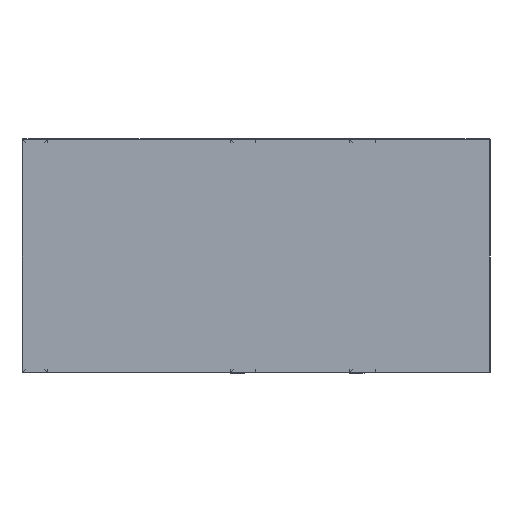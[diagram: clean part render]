
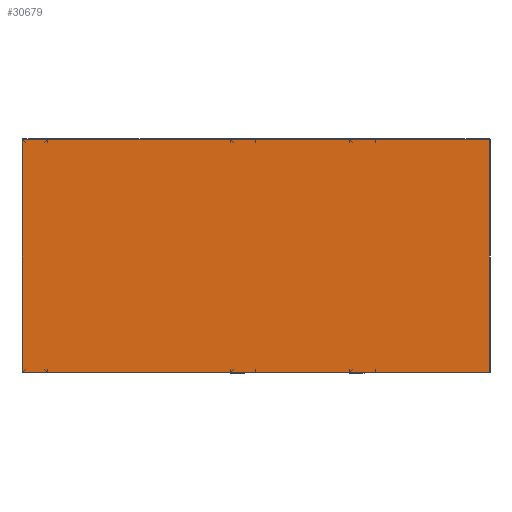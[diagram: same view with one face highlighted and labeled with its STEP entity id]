
A CAD part, left-side view. The second image highlights one B-rep face of the part: STEP entity #30679.
In plain terms, the highlighted planar face has unit normal (-1, 0, 0).
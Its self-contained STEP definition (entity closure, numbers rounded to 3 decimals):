
#2021 = CARTESIAN_POINT ( 'NONE',  ( -900., -1.414, -198.586 ) ) ;
#3353 = CARTESIAN_POINT ( 'NONE',  ( -900., -1.414, -200. ) ) ;
#3425 = CARTESIAN_POINT ( 'NONE',  ( -900., -798.586, 198.586 ) ) ;
#3618 = EDGE_CURVE ( 'NONE', #8249, #49755, #12472, .T. ) ;
#5430 = AXIS2_PLACEMENT_3D ( 'NONE', #32162, #25050, #19675 ) ;
#6197 = ORIENTED_EDGE ( 'NONE', *, *, #3618, .T. ) ;
#8249 = VERTEX_POINT ( 'NONE', #2021 ) ;
#10361 = PLANE ( 'NONE',  #5430 ) ;
#12472 = LINE ( 'NONE', #28210, #57096 ) ;
#19675 = DIRECTION ( 'NONE',  ( 0., 0., -1. ) ) ;
#20608 = ORIENTED_EDGE ( 'NONE', *, *, #63115, .T. ) ;
#21676 = DIRECTION ( 'NONE',  ( 0., 0., 1. ) ) ;
#21734 = VERTEX_POINT ( 'NONE', #3425 ) ;
#25050 = DIRECTION ( 'NONE',  ( 1., 0., 0. ) ) ;
#28210 = CARTESIAN_POINT ( 'NONE',  ( -900., 0., -198.586 ) ) ;
#29650 = CARTESIAN_POINT ( 'NONE',  ( -900., 0., 198.586 ) ) ;
#30679 = ADVANCED_FACE ( 'NONE', ( #59242 ), #10361, .F. ) ;
#31518 = VECTOR ( 'NONE', #40502, 1000. ) ;
#32162 = CARTESIAN_POINT ( 'NONE',  ( -900., 0., 0. ) ) ;
#33071 = CARTESIAN_POINT ( 'NONE',  ( -900., -798.586, 0. ) ) ;
#33755 = CARTESIAN_POINT ( 'NONE',  ( -900., -1.414, 198.586 ) ) ;
#34251 = DIRECTION ( 'NONE',  ( 0., -1., 0. ) ) ;
#34980 = VERTEX_POINT ( 'NONE', #33755 ) ;
#36757 = LINE ( 'NONE', #29650, #50770 ) ;
#40502 = DIRECTION ( 'NONE',  ( 0., 0., 1. ) ) ;
#43793 = LINE ( 'NONE', #33071, #48380 ) ;
#46494 = EDGE_LOOP ( 'NONE', ( #20608, #67589, #6197, #52085 ) ) ;
#48380 = VECTOR ( 'NONE', #21676, 1000. ) ;
#49755 = VERTEX_POINT ( 'NONE', #60561 ) ;
#50770 = VECTOR ( 'NONE', #62435, 1000. ) ;
#52085 = ORIENTED_EDGE ( 'NONE', *, *, #57630, .T. ) ;
#56527 = LINE ( 'NONE', #3353, #31518 ) ;
#57096 = VECTOR ( 'NONE', #34251, 1000. ) ;
#57630 = EDGE_CURVE ( 'NONE', #49755, #21734, #43793, .T. ) ;
#59242 = FACE_OUTER_BOUND ( 'NONE', #46494, .T. ) ;
#59793 = EDGE_CURVE ( 'NONE', #8249, #34980, #56527, .T. ) ;
#60561 = CARTESIAN_POINT ( 'NONE',  ( -900., -798.586, -198.586 ) ) ;
#62435 = DIRECTION ( 'NONE',  ( 0., 1., 0. ) ) ;
#63115 = EDGE_CURVE ( 'NONE', #21734, #34980, #36757, .T. ) ;
#67589 = ORIENTED_EDGE ( 'NONE', *, *, #59793, .F. ) ;
